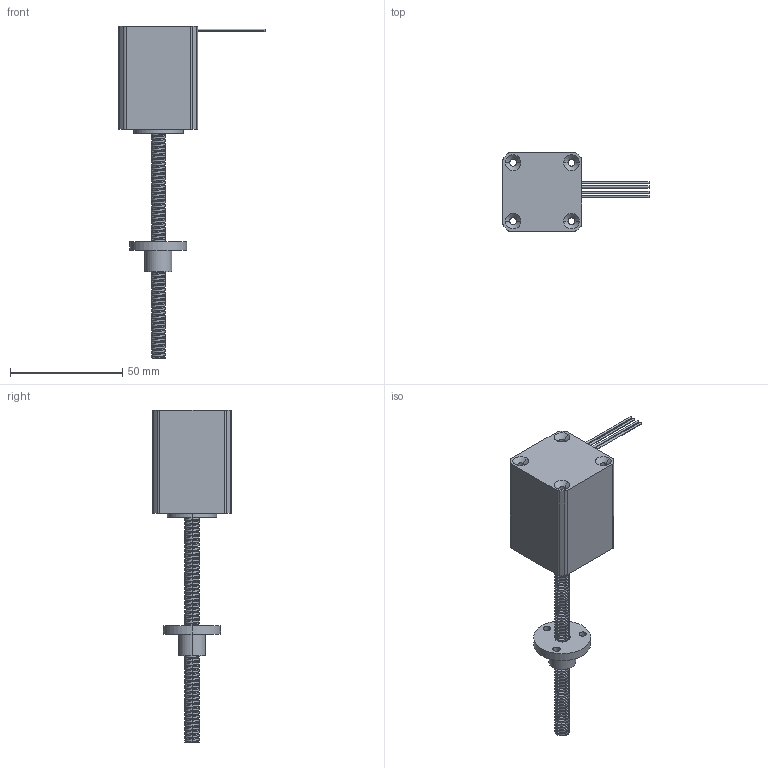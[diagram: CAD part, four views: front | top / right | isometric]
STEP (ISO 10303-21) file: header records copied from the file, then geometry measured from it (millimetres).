
FILE_DESCRIPTION(('FreeCAD Model'),'2;1');
FILE_NAME( 'C:/Users/ck/Documents/NAS02/Ny mappe/Ok/MSL142AEx-4L3N0xxxx.step', '2018-07-27T14:10:38',('Author'),(''), 'Open CASCADE STEP processor 6.8','FreeCAD','Unknown');
FILE_SCHEMA(('AUTOMOTIVE_DESIGN_CC2 { 1 2 10303 214 -1 1 5 4 }'));
Length unit declared in the file: millimetre
Products named in the file (2): ASSEMBLY
Assembly tree (1 placements, depth 2):
  ASSEMBLY
    (unnamed)
Bounding box: 65 x 35 x 147.8 mm (x, y, z)
Volume: 60322.8 mm3; surface area: 15767.6 mm2
Topology: 1 solids, 1 shells, 174 faces, 487 edges, 322 vertices
Faces by surface type: cylinder 146, plane 16, cone 8, bspline 4
Entity records: 45160 total; most frequent: CARTESIAN_POINT 37603, ORIENTED_EDGE 974, PCURVE 974, DEFINITIONAL_REPRESENTATION 974, B_SPLINE_CURVE_WITH_KNOTS 870, DIRECTION 800, EDGE_CURVE 487, SURFACE_CURVE 487
